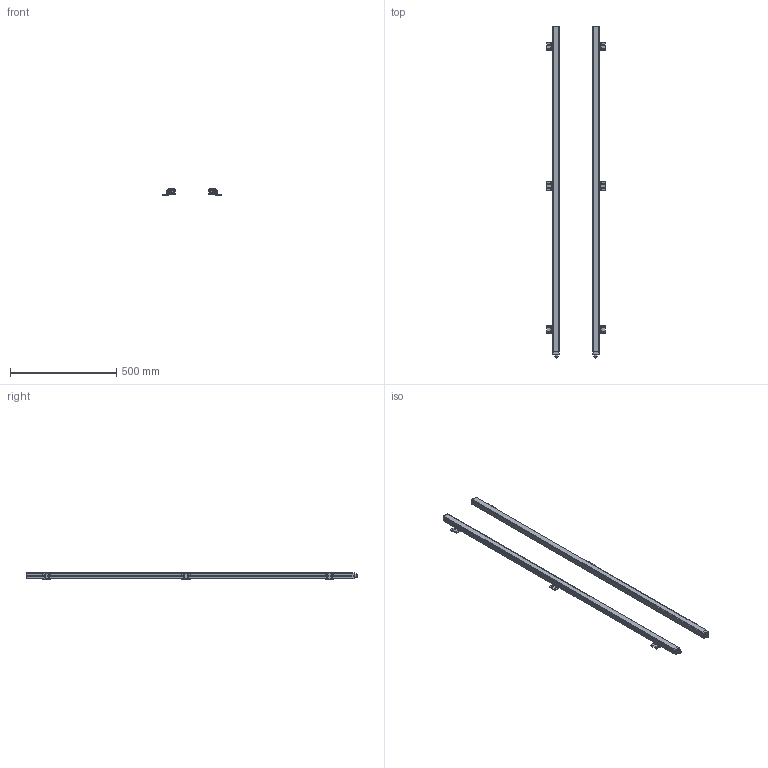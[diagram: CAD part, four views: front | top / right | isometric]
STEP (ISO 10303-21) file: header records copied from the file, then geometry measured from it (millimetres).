
FILE_DESCRIPTION( ( 'STEP AP203' ), '1' );
FILE_NAME( 'p:/temp/worker_13/3348_3448/app_72_02015061609442354761431192d056f_00_00_00_000/STEP/OY040S_2_03.stp', ' ', ( ' ' ), ( ' ' ), 'PSStep 15.0.47', 'PARTsolutions', ' ' );
FILE_SCHEMA( ( 'CONFIG_CONTROL_DESIGN' ) );
Length unit declared in the file: millimetre
Products named in the file (3): OY040S; _OY040S_part1; _OY035S_part2
Assembly tree (8 placements, depth 2):
  OY040S
    _OY040S_part1  x2
    _OY035S_part2  x6
Bounding box: 276 x 1563 x 29.34 mm (x, y, z)
Volume: 2516168.9 mm3; surface area: 430885.6 mm2
Topology: 8 solids, 8 shells, 922 faces, 2468 edges, 1626 vertices
Faces by surface type: plane 532, cylinder 368, cone 14, torus 8
Full cylindrical faces by diameter (mm): 2.5 x8, 3 x8, 5 x44, 8.9 x12, 12 x2, 18 x2
Entity records: 10322 total; most frequent: CARTESIAN_POINT 1836, DIRECTION 1792, ORIENTED_EDGE 1690, EDGE_CURVE 845, AXIS2_PLACEMENT_3D 621, VERTEX_POINT 577, LINE 550, VECTOR 550
